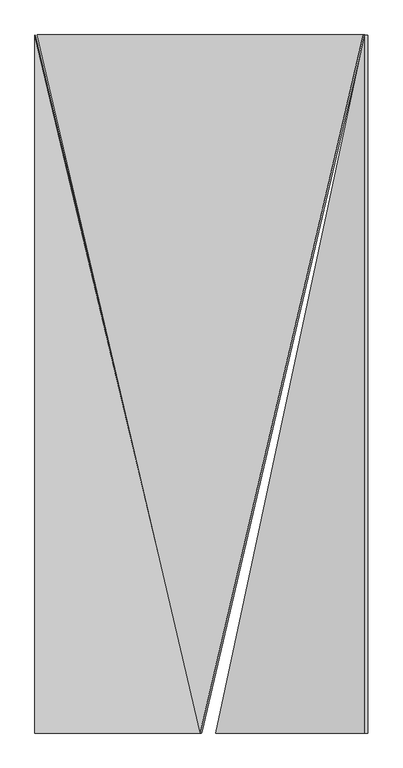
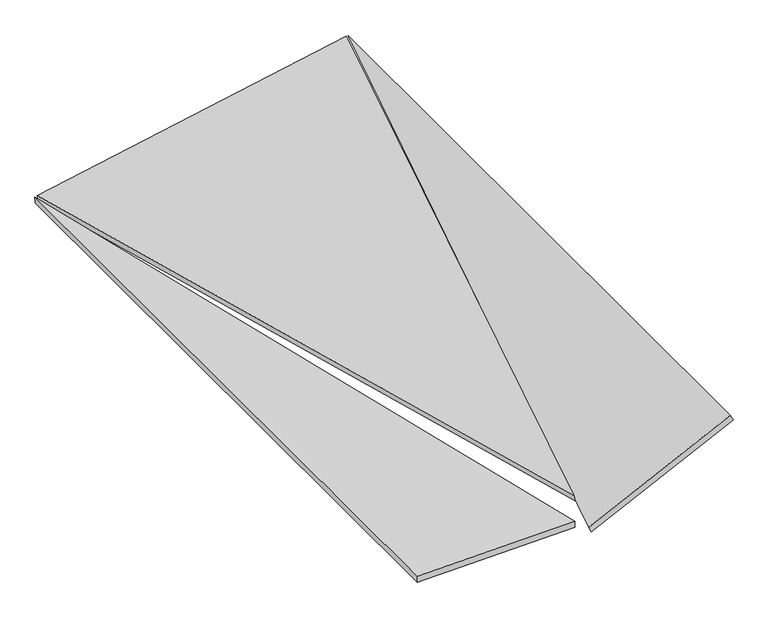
"""IFC4 building model written with IfcOpenShell, lengths in millimetres: proxy geometry, panel sufitowy 6 : panel sufitowy 6."""

from ifc_helpers import new_model, si_unit, frame, origin, place, context, project, spatial, polyline, outline, extrude, source, transform, mapped, element, save


def generic_models_8ffda326(model_context):
    return source(origin(), model_context, "Body", "SweptSolid", [
        extrude(outline(polyline([(-900.9098917, 0.0), (1235.4098448, 0.0), (1006.1909889, -962.7191946), (-900.9098917, 0.0)])), frame((545.2918602, -1457.4151922, 1290.2824633), z_axis=(-0.19080899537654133, 0.0, 0.9816271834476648), x_axis=(-0.22736500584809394, 0.9728062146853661, -0.04419528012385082)), (0.0, 0.0, 1.0), 20.0),
        extrude(outline(polyline([(-127.5, 0.0), (-622.5, 0.0), (-127.5, 2079.0), (-127.5, 0.0)])), frame((1360.1708079, -2335.0, 1482.2959536), z_axis=(-0.43837114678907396, 0.0, 0.8987940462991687), x_axis=(0.8987940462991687, 0.0, 0.43837114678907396)), (0.0, 0.0, 1.0), 20.0),
        extrude(outline(polyline([(-127.5, 0.0), (-127.5, -2079.0), (-622.5, 0.0), (-127.5, 0.0)])), frame((126.6505306, -2335.0, 1231.4613652), z_axis=(-0.017452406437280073, 0.0, 0.9998476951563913), x_axis=(-0.9998476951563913, 0.0, -0.017452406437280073)), (0.0, 0.0, 1.0), 20.0),
    ])


if __name__ == "__main__":
    model = new_model("IFC4")
    model_context = context("Model", 3, world=origin())
    ifc_project = project(units=[si_unit("LENGTHUNIT", "METRE", prefix="MILLI")], contexts=[model_context])
    site = spatial("IfcSite", under=ifc_project)
    building = spatial("IfcBuilding", under=site)
    placement = place(None, origin())
    generic_models_shape = generic_models_8ffda326(model_context)
    element("IfcBuildingElementProxy", 1, Name="panel sufitowy 6 : panel sufitowy 6", ObjectType="panel sufitowy 6 : panel sufitowy 6", at=placement, inside=building, context=model_context, shape_type="MappedRepresentation", body=[
        mapped(generic_models_shape, transform((0.0, 0.0, 0.0), x_axis=(1.0, 0.0, 0.0), y_axis=(0.0, 1.0, 0.0), z_axis=(0.0, 0.0, 1.0))),
    ])
    save(model, "model.ifc")
